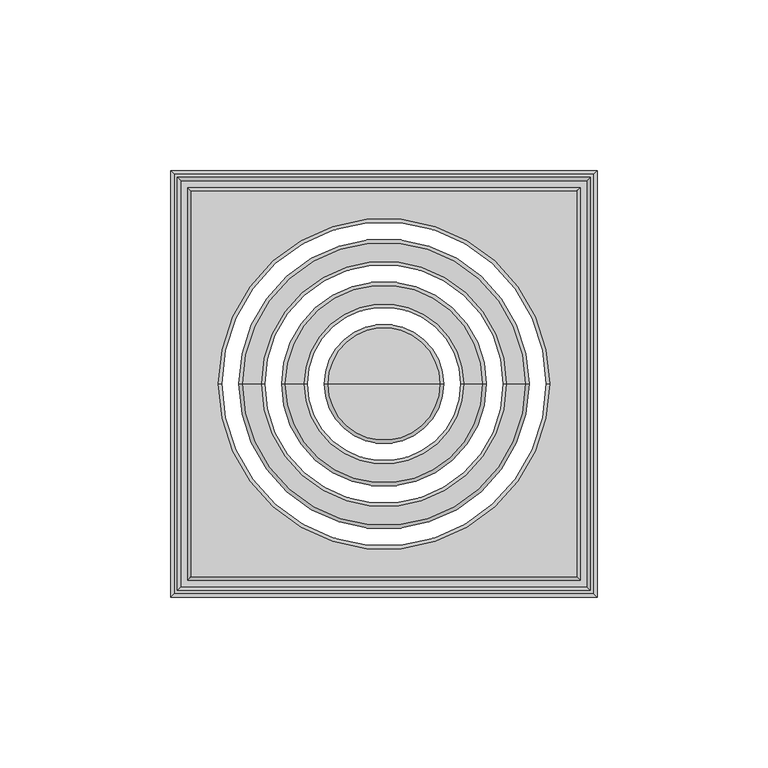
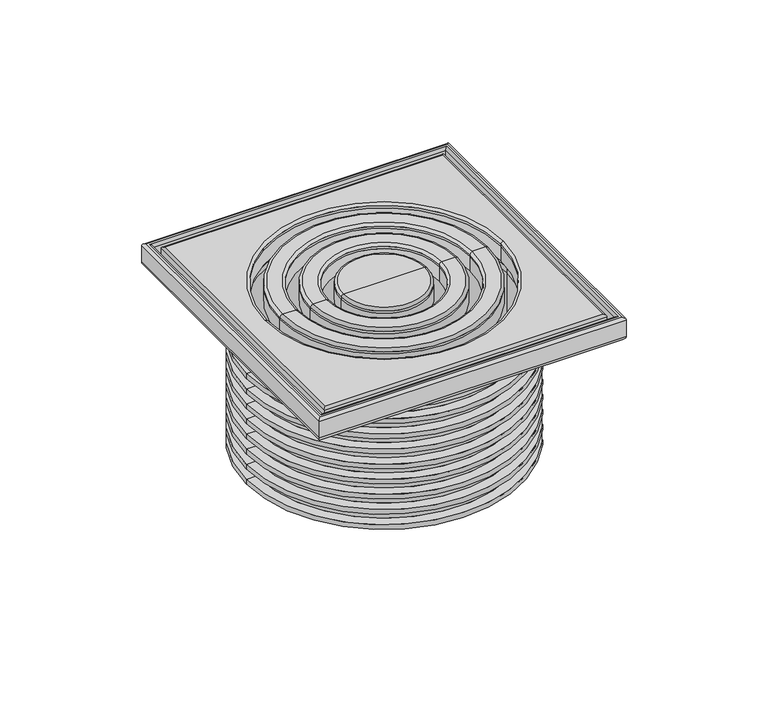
"""IFC4 building model written with IfcOpenShell, lengths in millimetres: flow terminal geometry."""

from ifc_helpers import new_model, si_unit, point, frame, origin, origin_with_axes, place, context, project, spatial, polyline, circle_curve, ellipse_curve, trimmed, source, transform, mapped, element, save
from ifc_brep_helpers import plane_surface, cylinder_surface, revolved_surface, advanced_brep


def flow_terminal_ce6f007e(model_context):
    return source(origin(), model_context, "Body", "AdvancedBrep", [
        advanced_brep(
        [(59.5, -59.5, -8.0), (59.5, 59.5, -8.0), (-59.5, 59.5, -8.0), (-59.5, -59.5, -8.0), (0.0, -55.0, -8.0), (0.0, 55.0, -8.0), (60.5, 60.5, -10.0), (60.5, -60.5, -10.0), (-60.5, -60.5, -10.0), (-60.5, 60.5, -10.0), (56.5, 0.0, -10.0), (-56.5, 0.0, -10.0), (0.0, -55.0, -10.0), (-55.0, 0.0, -10.0), (0.0, 55.0, -10.0), (55.0, 0.0, -10.0), (62.5, 62.5, -8.0), (62.5, -62.5, -8.0), (59.5, -59.5, -1.0), (59.5, 59.5, -1.0), (62.5, 62.5, -1.0), (61.5, 61.5, 0.0), (61.5, -61.5, 0.0), (62.5, -62.5, -1.0), (-62.5, -62.5, -8.0), (-59.5, -59.5, -1.0), (-61.5, -61.5, 0.0), (-62.5, -62.5, -1.0), (-62.5, 62.5, -8.0), (-59.5, 59.5, -1.0), (-61.5, 61.5, 0.0), (-62.5, 62.5, -1.0), (60.5, -60.5, 0.0), (-60.5, -60.5, 0.0), (-60.5, 60.5, 0.0), (60.5, 60.5, 0.0), (-50.0, 0.0, -14.0), (50.0, 0.0, -14.0), (50.0, 0.0, -12.0), (-50.0, 0.0, -12.0), (-55.5, 0.0, -14.0), (55.5, 0.0, -14.0), (-51.0, 0.0, -10.0), (51.0, 0.0, -10.0), (-55.5, 0.0, -12.0), (55.5, 0.0, -12.0)],
        [
            (0, 1),
            (1, 2),
            (2, 3),
            (3, 0),
            (4, 5, circle_curve(frame((0.0, 0.0, -8.0), z_axis=(0.0, 0.0, -1.0), x_axis=(0.0, 1.0, 0.0)), 55.0)),
            (5, 4, circle_curve(frame((0.0, 0.0, -8.0), z_axis=(0.0, 0.0, -1.0), x_axis=(0.0, 1.0, 0.0)), 55.0)),
            (6, 7),
            (7, 8),
            (8, 9),
            (9, 6),
            (10, 11, circle_curve(frame((0.0, 0.0, -10.0), z_axis=(0.0, 0.0, 1.0), x_axis=(1.0, 0.0, 0.0)), 56.5)),
            (11, 10, circle_curve(frame((0.0, 0.0, -10.0), z_axis=(0.0, 0.0, 1.0), x_axis=(1.0, 0.0, 0.0)), 56.5)),
            (4, 12),
            (12, 13, circle_curve(frame((0.0, 0.0, -10.0), z_axis=(0.0, 0.0, -1.0), x_axis=(0.0, 1.0, 0.0)), 55.0)),
            (13, 14, circle_curve(frame((0.0, 0.0, -10.0), z_axis=(0.0, 0.0, -1.0), x_axis=(0.0, 1.0, 0.0)), 55.0)),
            (14, 5),
            (14, 15, circle_curve(frame((0.0, 0.0, -10.0), z_axis=(0.0, 0.0, -1.0), x_axis=(0.0, 1.0, 0.0)), 55.0)),
            (15, 12, circle_curve(frame((0.0, 0.0, -10.0), z_axis=(0.0, 0.0, -1.0), x_axis=(0.0, 1.0, 0.0)), 55.0)),
            (6, 16, ellipse_curve(frame((60.5, 60.5, -8.0), z_axis=(0.7071067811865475, -0.7071067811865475, 0.0), x_axis=(0.7071067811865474, 0.7071067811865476, 0.0)), 2.8284271, 2.0)),
            (16, 17),
            (17, 7, ellipse_curve(frame((60.5, -60.5, -8.0), z_axis=(0.7071067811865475, 0.7071067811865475, 0.0), x_axis=(-0.7071067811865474, 0.7071067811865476, 0.0)), 2.8284271, 2.0)),
            (18, 19),
            (19, 1),
            (0, 18),
            (20, 21, ellipse_curve(frame((61.5, 61.5, -1.0), z_axis=(0.7071067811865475, -0.7071067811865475, 0.0), x_axis=(0.7071067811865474, 0.7071067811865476, 0.0)), 1.4142136, 1.0)),
            (21, 22),
            (22, 23, ellipse_curve(frame((61.5, -61.5, -1.0), z_axis=(0.7071067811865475, 0.7071067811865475, 0.0), x_axis=(-0.7071067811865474, 0.7071067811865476, 0.0)), 1.4142136, 1.0)),
            (23, 20),
            (16, 20),
            (23, 17),
            (17, 24),
            (24, 8, ellipse_curve(frame((-60.5, -60.5, -8.0), z_axis=(0.7071067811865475, -0.7071067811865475, 0.0), x_axis=(0.7071067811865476, 0.7071067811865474, 0.0)), 2.8284271, 2.0)),
            (25, 18),
            (3, 25),
            (22, 26),
            (26, 27, ellipse_curve(frame((-61.5, -61.5, -1.0), z_axis=(0.7071067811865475, -0.7071067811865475, 0.0), x_axis=(0.7071067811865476, 0.7071067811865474, 0.0)), 1.4142136, 1.0)),
            (27, 23),
            (27, 24),
            (24, 28),
            (28, 9, ellipse_curve(frame((-60.5, 60.5, -8.0), z_axis=(-0.7071067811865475, -0.7071067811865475, 0.0), x_axis=(0.7071067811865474, -0.7071067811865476, 0.0)), 2.8284271, 2.0)),
            (29, 25),
            (2, 29),
            (26, 30),
            (30, 31, ellipse_curve(frame((-61.5, 61.5, -1.0), z_axis=(-0.7071067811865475, -0.7071067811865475, 0.0), x_axis=(0.7071067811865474, -0.7071067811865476, 0.0)), 1.4142136, 1.0)),
            (31, 27),
            (31, 28),
            (28, 16),
            (19, 29),
            (21, 30),
            (32, 33),
            (33, 34),
            (34, 35),
            (35, 32),
            (20, 31),
            (18, 32, ellipse_curve(frame((60.5, -60.5, -1.0), z_axis=(0.7071067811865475, 0.7071067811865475, 0.0), x_axis=(-0.7071067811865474, 0.7071067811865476, 0.0)), 1.4142136, 1.0)),
            (35, 19, ellipse_curve(frame((60.5, 60.5, -1.0), z_axis=(0.7071067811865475, -0.7071067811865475, 0.0), x_axis=(0.7071067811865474, 0.7071067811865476, 0.0)), 1.4142136, 1.0)),
            (25, 33, ellipse_curve(frame((-60.5, -60.5, -1.0), z_axis=(0.7071067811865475, -0.7071067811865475, 0.0), x_axis=(0.7071067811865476, 0.7071067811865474, 0.0)), 1.4142136, 1.0)),
            (29, 34, ellipse_curve(frame((-60.5, 60.5, -1.0), z_axis=(-0.7071067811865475, -0.7071067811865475, 0.0), x_axis=(0.7071067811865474, -0.7071067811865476, 0.0)), 1.4142136, 1.0)),
            (36, 37, circle_curve(frame((0.0, 0.0, -14.0), z_axis=(0.0, 0.0, -1.0), x_axis=(1.0, 0.0, 0.0)), 50.0)),
            (37, 38),
            (38, 39, circle_curve(frame((0.0, 0.0, -12.0), z_axis=(0.0, 0.0, 1.0), x_axis=(1.0, 0.0, 0.0)), 50.0)),
            (39, 36),
            (37, 36, circle_curve(frame((0.0, 0.0, -14.0), z_axis=(0.0, 0.0, -1.0), x_axis=(1.0, 0.0, 0.0)), 50.0)),
            (39, 38, circle_curve(frame((0.0, 0.0, -12.0), z_axis=(0.0, 0.0, 1.0), x_axis=(1.0, 0.0, 0.0)), 50.0)),
            (36, 40),
            (40, 41, circle_curve(frame((0.0, 0.0, -14.0), z_axis=(0.0, 0.0, -1.0), x_axis=(1.0, 0.0, 0.0)), 55.5)),
            (41, 37),
            (41, 40, circle_curve(frame((0.0, 0.0, -14.0), z_axis=(0.0, 0.0, -1.0), x_axis=(1.0, 0.0, 0.0)), 55.5)),
            (42, 43, circle_curve(frame((0.0, 0.0, -10.0), z_axis=(0.0, 0.0, -1.0), x_axis=(1.0, 0.0, 0.0)), 51.0)),
            (43, 15),
            (13, 42),
            (43, 42, circle_curve(frame((0.0, 0.0, -10.0), z_axis=(0.0, 0.0, -1.0), x_axis=(1.0, 0.0, 0.0)), 51.0)),
            (40, 44),
            (44, 45, circle_curve(frame((0.0, 0.0, -12.0), z_axis=(0.0, 0.0, -1.0), x_axis=(1.0, 0.0, 0.0)), 55.5)),
            (45, 41),
            (45, 44, circle_curve(frame((0.0, 0.0, -12.0), z_axis=(0.0, 0.0, -1.0), x_axis=(1.0, 0.0, 0.0)), 55.5)),
            (44, 11),
            (10, 45),
            (38, 43),
            (42, 39),
        ],
        [
            plane_surface(frame((-59.5, 59.5, -8.0), z_axis=(0.0, 0.0, 1.0), x_axis=(-1.0, 0.0, 0.0))),
            plane_surface(frame((-59.5, 59.5, -10.0), z_axis=(0.0, 0.0, -1.0), x_axis=(1.0, 0.0, 0.0))),
            revolved_surface(polyline([(0.0, 55.0, -10.0), (0.0, 55.0, -8.0)]), (0.0, 0.0, -10.0), (0.0, 0.0, -1.0)),
            cylinder_surface(frame((60.5, 62.5, -8.0), z_axis=(0.0, 1.0, 0.0), x_axis=(1.0, 0.0, 0.0)), 2.0),
            plane_surface(frame((59.5, 59.5, -10.0), z_axis=(-1.0, 0.0, 0.0), x_axis=(0.0, -1.0, 0.0))),
            cylinder_surface(frame((61.5, 62.5, -1.0), z_axis=(0.0, 1.0, 0.0), x_axis=(1.0, 0.0, 0.0)), 1.0),
            plane_surface(frame((62.5, 62.5, -1.0), z_axis=(1.0, 0.0, 0.0), x_axis=(0.0, -1.0, 0.0))),
            cylinder_surface(frame((62.5, -60.5, -8.0), z_axis=(1.0, 0.0, 0.0), x_axis=(0.0, -1.0, 0.0)), 2.0),
            plane_surface(frame((59.5, -59.5, -10.0), z_axis=(0.0, 1.0, 0.0), x_axis=(-1.0, 0.0, 0.0))),
            cylinder_surface(frame((62.5, -61.5, -1.0), z_axis=(1.0, 0.0, 0.0), x_axis=(0.0, -1.0, 0.0)), 1.0),
            plane_surface(frame((62.5, -62.5, -1.0), z_axis=(0.0, -1.0, 0.0), x_axis=(-1.0, 0.0, 0.0))),
            cylinder_surface(frame((-60.5, -62.5, -8.0), z_axis=(0.0, -1.0, 0.0), x_axis=(-1.0, 0.0, 0.0)), 2.0),
            plane_surface(frame((-59.5, -59.5, -10.0), z_axis=(1.0, 0.0, 0.0), x_axis=(0.0, 1.0, 0.0))),
            cylinder_surface(frame((-61.5, -62.5, -1.0), z_axis=(0.0, -1.0, 0.0), x_axis=(-1.0, 0.0, 0.0)), 1.0),
            plane_surface(frame((-62.5, -62.5, -1.0), z_axis=(-1.0, 0.0, 0.0), x_axis=(0.0, 1.0, 0.0))),
            cylinder_surface(frame((-62.5, 60.5, -8.0), z_axis=(-1.0, 0.0, 0.0), x_axis=(0.0, 1.0, 0.0)), 2.0),
            plane_surface(frame((-59.5, 59.5, -10.0), z_axis=(0.0, -1.0, 0.0), x_axis=(1.0, 0.0, 0.0))),
            plane_surface(frame((-60.5, 60.5, 0.0), z_axis=(0.0, 0.0, 1.0), x_axis=(1.0, 0.0, 0.0))),
            cylinder_surface(frame((-62.5, 61.5, -1.0), z_axis=(-1.0, 0.0, 0.0), x_axis=(0.0, 1.0, 0.0)), 1.0),
            plane_surface(frame((-62.5, 62.5, -1.0), z_axis=(0.0, 1.0, 0.0), x_axis=(1.0, 0.0, 0.0))),
            cylinder_surface(frame((60.5, 62.5, -1.0), z_axis=(0.0, 1.0, 0.0), x_axis=(1.0, 0.0, 0.0)), 1.0),
            cylinder_surface(frame((62.5, -60.5, -1.0), z_axis=(1.0, 0.0, 0.0), x_axis=(0.0, -1.0, 0.0)), 1.0),
            cylinder_surface(frame((-60.5, -62.5, -1.0), z_axis=(0.0, -1.0, 0.0), x_axis=(-1.0, 0.0, 0.0)), 1.0),
            cylinder_surface(frame((-62.5, 60.5, -1.0), z_axis=(-1.0, 0.0, 0.0), x_axis=(0.0, 1.0, 0.0)), 1.0),
            revolved_surface(polyline([(50.0, 0.0, -12.0), (50.0, 0.0, -14.0)]), (0.0, 0.0, 2214.3150031), (0.0, 0.0, 1.0)),
            plane_surface(frame((0.0, 0.0, -14.0), z_axis=(0.0, 0.0, -1.0), x_axis=(1.0, 0.0, 0.0))),
            plane_surface(frame((0.0, 0.0, -10.0), z_axis=(0.0, 0.0, 1.0), x_axis=(1.0, 0.0, 0.0))),
            cylinder_surface(frame((0.0, 0.0, 2214.3150031), z_axis=(0.0, 0.0, 1.0), x_axis=(1.0, 0.0, 0.0)), 55.5),
            revolved_surface(polyline([(55.5, 0.0, -12.0), (56.5, 0.0, -10.0)]), (0.0, 0.0, 2214.3150031), (0.0, 0.0, 1.0)),
            revolved_surface(polyline([(51.0, 0.0, -10.0), (50.0, 0.0, -12.0)]), (0.0, 0.0, 2214.3150031), (0.0, 0.0, 1.0)),
        ],
        [
            (0, [[1, 2, 3, 4], [5, 6]]),
            (1, [[7, 8, 9, 10], [11, 12]]),
            (2, [[-5, 13, 14, 15, 16]]),
            (2, [[-6, -16, 17, 18, -13]]),
            (3, [[19, 20, 21, -7]]),
            (4, [[22, 23, -1, 24]]),
            (5, [[25, 26, 27, 28]]),
            (6, [[-20, 29, -28, 30]]),
            (7, [[-21, 31, 32, -8]]),
            (8, [[33, -24, -4, 34]]),
            (9, [[-27, 35, 36, 37]]),
            (10, [[-30, -37, 38, -31]]),
            (11, [[-32, 39, 40, -9]]),
            (12, [[41, -34, -3, 42]]),
            (13, [[-36, 43, 44, 45]]),
            (14, [[-38, -45, 46, -39]]),
            (15, [[-19, -10, -40, 47]]),
            (16, [[48, -42, -2, -23]]),
            (17, [[-26, 49, -43, -35], [50, 51, 52, 53]]),
            (18, [[-25, 54, -44, -49]]),
            (19, [[-29, -47, -46, -54]]),
            (20, [[-22, 55, -53, 56]]),
            (21, [[-33, 57, -50, -55]]),
            (22, [[-41, 58, -51, -57]]),
            (23, [[-48, -56, -52, -58]]),
            (24, [[59, 60, 61, 62]]),
            (24, [[-60, 63, -62, 64]]),
            (25, [[-59, 65, 66, 67]]),
            (25, [[-63, -67, 68, -65]]),
            (26, [[69, 70, -17, -15, 71]]),
            (26, [[72, -71, -14, -18, -70]]),
            (27, [[-66, 73, 74, 75]]),
            (27, [[-68, -75, 76, -73]]),
            (28, [[-74, 77, -11, 78]]),
            (28, [[-76, -78, -12, -77]]),
            (29, [[-61, 79, -69, 80]]),
            (29, [[-64, -80, -72, -79]]),
        ],
    ),
        advanced_brep(
        [(57.5, -57.5, -8.0), (-57.5, -57.5, -8.0), (-57.5, 57.5, -8.0), (57.5, 57.5, -8.0), (-47.5, 0.0, -8.0), (47.5, 0.0, -8.0), (57.5, 57.5, -1.0), (57.5, -57.5, -1.0), (-57.5, 57.5, -1.0), (-57.5, -57.5, -1.0), (47.5, 0.0, -2.0), (-47.5, 0.0, -2.0), (47.5, 0.0, -1.0), (-47.5, 0.0, -1.0), (-56.5, -56.5, 0.0), (56.5, -56.5, 0.0), (56.5, 56.5, 0.0), (-56.5, 56.5, 0.0), (-48.5, 0.0, 0.0), (48.5, 0.0, 0.0)],
        [
            (0, 1),
            (1, 2),
            (2, 3),
            (3, 0),
            (4, 5, circle_curve(frame((0.0, 0.0, -8.0), z_axis=(0.0, 0.0, 1.0), x_axis=(1.0, 0.0, 0.0)), 47.5)),
            (5, 4, circle_curve(frame((0.0, 0.0, -8.0), z_axis=(0.0, 0.0, 1.0), x_axis=(1.0, 0.0, 0.0)), 47.5)),
            (3, 6),
            (6, 7),
            (7, 0),
            (2, 8),
            (8, 6),
            (1, 9),
            (9, 8),
            (7, 9),
            (5, 10),
            (10, 11, circle_curve(frame((0.0, 0.0, -2.0), z_axis=(0.0, 0.0, 1.0), x_axis=(1.0, 0.0, 0.0)), 47.5)),
            (11, 4),
            (11, 10, circle_curve(frame((0.0, 0.0, -2.0), z_axis=(0.0, 0.0, 1.0), x_axis=(1.0, 0.0, 0.0)), 47.5)),
            (10, 12),
            (12, 13, circle_curve(frame((0.0, 0.0, -1.0), z_axis=(0.0, 0.0, 1.0), x_axis=(1.0, 0.0, 0.0)), 47.5)),
            (13, 11),
            (13, 12, circle_curve(frame((0.0, 0.0, -1.0), z_axis=(0.0, 0.0, 1.0), x_axis=(1.0, 0.0, 0.0)), 47.5)),
            (14, 15),
            (15, 16),
            (16, 17),
            (17, 14),
            (18, 19, circle_curve(frame((0.0, 0.0, 0.0), z_axis=(0.0, 0.0, -1.0), x_axis=(1.0, 0.0, 0.0)), 48.5)),
            (19, 18, circle_curve(frame((0.0, 0.0, 0.0), z_axis=(0.0, 0.0, -1.0), x_axis=(1.0, 0.0, 0.0)), 48.5)),
            (12, 19, circle_curve(frame((48.5, 0.0, -1.0), z_axis=(0.0, 1.0, 0.0), x_axis=(1.0, 0.0, 0.0)), 1.0)),
            (18, 13, circle_curve(frame((-48.5, 0.0, -1.0), z_axis=(0.0, 1.0, 0.0), x_axis=(-1.0, 0.0, 0.0)), 1.0)),
            (14, 9, ellipse_curve(frame((-56.5, -56.5, -1.0), z_axis=(0.7071067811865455, -0.7071067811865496, 0.0), x_axis=(-0.7071067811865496, -0.7071067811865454, 0.0)), 1.4142136, 1.0)),
            (7, 15, ellipse_curve(frame((56.5, -56.5, -1.0), z_axis=(-0.7071067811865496, -0.7071067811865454, 0.0), x_axis=(-0.7071067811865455, 0.7071067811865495, 0.0)), 1.4142136, 1.0)),
            (6, 16, ellipse_curve(frame((56.5, 56.5, -1.0), z_axis=(0.7071067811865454, -0.7071067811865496, 0.0), x_axis=(-0.7071067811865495, -0.7071067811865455, 0.0)), 1.4142136, 1.0)),
            (8, 17, ellipse_curve(frame((-56.5, 56.5, -1.0), z_axis=(0.7071067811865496, 0.7071067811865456, 0.0), x_axis=(0.7071067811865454, -0.7071067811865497, 0.0)), 1.4142136, 1.0)),
        ],
        [
            plane_surface(frame((57.5, -27.9226907, -8.0), z_axis=(0.0, 0.0, -1.0), x_axis=(0.0, -1.0, 0.0))),
            plane_surface(frame((57.5, -57.5, -2.0), z_axis=(1.0, 0.0, 0.0), x_axis=(0.0, 0.0, -1.0))),
            plane_surface(frame((57.5, 57.5, -2.0), z_axis=(0.0, 1.0, 0.0), x_axis=(0.0, 0.0, -1.0))),
            plane_surface(frame((-57.5, 57.5, -2.0), z_axis=(-1.0, 0.0, 0.0), x_axis=(0.0, 0.0, -1.0))),
            plane_surface(frame((-57.5, -57.5, -2.0), z_axis=(0.0, -1.0, 0.0), x_axis=(0.0, 0.0, -1.0))),
            revolved_surface(polyline([(47.5, 0.0, -8.0), (47.5, 0.0, -2.0)]), (0.0, 0.0, 0.0), (0.0, 0.0, -1.0)),
            revolved_surface(polyline([(47.5, 0.0, -1.0), (47.5, 0.0, -2.0)]), (0.0, 0.0, 2214.3150031), (0.0, 0.0, 1.0)),
            plane_surface(origin_with_axes()),
            revolved_surface(trimmed(ellipse_curve(frame((48.5, 0.0, -1.0), z_axis=(0.0, -1.0, 0.0), x_axis=(1.0, 0.0, 0.0)), 1.0, 1.0), [point((48.5, 0.0, 0.0))], [point((47.5, 0.0, -1.0))], True, "CARTESIAN"), (0.0, 0.0, 2214.3150031), (0.0, 0.0, 1.0)),
            cylinder_surface(frame((-57.5, -56.5, -1.0), z_axis=(-1.0, 0.0, 0.0), x_axis=(0.0, 1.0, 0.0)), 1.0),
            cylinder_surface(frame((56.5, -57.5, -1.0), z_axis=(0.0, -1.0, 0.0), x_axis=(-1.0, 0.0, 0.0)), 1.0),
            cylinder_surface(frame((57.5, 56.5, -1.0), z_axis=(1.0, 0.0, 0.0), x_axis=(0.0, -1.0, 0.0)), 1.0),
            cylinder_surface(frame((-56.5, 57.5, -1.0), z_axis=(0.0, 1.0, 0.0), x_axis=(1.0, 0.0, 0.0)), 1.0),
        ],
        [
            (0, [[1, 2, 3, 4], [5, 6]]),
            (1, [[-4, 7, 8, 9]]),
            (2, [[-3, 10, 11, -7]]),
            (3, [[-2, 12, 13, -10]]),
            (4, [[-1, -9, 14, -12]]),
            (5, [[-6, 15, 16, 17]]),
            (5, [[-5, -17, 18, -15]]),
            (6, [[19, 20, 21, -16]]),
            (6, [[-19, -18, -21, 22]]),
            (7, [[23, 24, 25, 26], [27, 28]]),
            (8, [[-20, 29, -27, 30]]),
            (8, [[-22, -30, -28, -29]]),
            (9, [[31, -14, 32, -23]]),
            (10, [[-32, -8, 33, -24]]),
            (11, [[-33, -11, 34, -25]]),
            (12, [[-31, -26, -34, -13]]),
        ],
    ),
        advanced_brep(
        [(-17.5, 0.0, -8.0), (17.5, 0.0, -8.0), (17.5, 0.0, -2.0), (-17.5, 0.0, -2.0), (-17.5, 0.0, -1.0), (17.5, 0.0, -1.0), (-16.5, 0.0, 0.0), (16.5, 0.0, 0.0), (0.0, 0.0, 0.0)],
        [
            (0, 1, circle_curve(frame((0.0, 0.0, -8.0), z_axis=(0.0, 0.0, -1.0), x_axis=(1.0, 0.0, 0.0)), 17.5)),
            (1, 0, circle_curve(frame((0.0, 0.0, -8.0), z_axis=(0.0, 0.0, -1.0), x_axis=(1.0, 0.0, 0.0)), 17.5)),
            (1, 2),
            (2, 3, circle_curve(frame((0.0, 0.0, -2.0), z_axis=(0.0, 0.0, -1.0), x_axis=(1.0, 0.0, 0.0)), 17.5)),
            (3, 0),
            (3, 2, circle_curve(frame((0.0, 0.0, -2.0), z_axis=(0.0, 0.0, -1.0), x_axis=(1.0, 0.0, 0.0)), 17.5)),
            (4, 5, circle_curve(frame((0.0, 0.0, -1.0), z_axis=(0.0, 0.0, -1.0), x_axis=(1.0, 0.0, 0.0)), 17.5)),
            (5, 2),
            (3, 4),
            (5, 4, circle_curve(frame((0.0, 0.0, -1.0), z_axis=(0.0, 0.0, -1.0), x_axis=(1.0, 0.0, 0.0)), 17.5)),
            (4, 6, circle_curve(frame((-16.5, 0.0, -1.0), z_axis=(0.0, 1.0, 0.0), x_axis=(-1.0, 0.0, 0.0)), 1.0)),
            (6, 7, circle_curve(frame((0.0, 0.0, 0.0), z_axis=(0.0, 0.0, -1.0), x_axis=(1.0, 0.0, 0.0)), 16.5)),
            (7, 5, circle_curve(frame((16.5, 0.0, -1.0), z_axis=(0.0, 1.0, 0.0), x_axis=(1.0, 0.0, 0.0)), 1.0)),
            (7, 6, circle_curve(frame((0.0, 0.0, 0.0), z_axis=(0.0, 0.0, -1.0), x_axis=(1.0, 0.0, 0.0)), 16.5)),
            (6, 8),
            (8, 7),
        ],
        [
            plane_surface(frame((57.5, -27.9226907, -8.0), z_axis=(0.0, 0.0, -1.0), x_axis=(0.0, -1.0, 0.0))),
            cylinder_surface(origin_with_axes(), 17.5),
            cylinder_surface(frame((0.0, 0.0, 2214.3150031), z_axis=(0.0, 0.0, 1.0), x_axis=(1.0, 0.0, 0.0)), 17.5),
            revolved_surface(trimmed(ellipse_curve(frame((16.5, 0.0, -1.0), z_axis=(0.0, -1.0, 0.0), x_axis=(1.0, 0.0, 0.0)), 1.0, 1.0), [point((17.5, 0.0, -1.0))], [point((16.5, 0.0, 0.0))], True, "CARTESIAN"), (0.0, 0.0, 2214.3150031), (0.0, 0.0, 1.0)),
            plane_surface(origin_with_axes()),
        ],
        [
            (0, [[1, 2]]),
            (1, [[-2, 3, 4, 5]]),
            (1, [[-1, -5, 6, -3]]),
            (2, [[7, 8, -6, 9]]),
            (2, [[-8, 10, -9, -4]]),
            (3, [[-7, 11, 12, 13]]),
            (3, [[-10, -13, 14, -11]]),
            (4, [[-12, 15, 16]]),
            (4, [[-14, -16, -15]]),
        ],
    ),
        advanced_brep(
        [(-30.0, 0.0, -8.0), (30.0, 0.0, -8.0), (-22.5, 0.0, -8.0), (22.5, 0.0, -8.0), (22.5, 0.0, -2.0), (-22.5, 0.0, -2.0), (30.0, 0.0, -2.0), (-30.0, 0.0, -2.0), (-29.0, 0.0, 0.0), (29.0, 0.0, 0.0), (30.0, 0.0, -1.0), (-30.0, 0.0, -1.0), (-23.5, 0.0, 0.0), (23.5, 0.0, 0.0), (-22.5, 0.0, -1.0), (22.5, 0.0, -1.0)],
        [
            (0, 1, circle_curve(frame((0.0, 0.0, -8.0), z_axis=(0.0, 0.0, -1.0), x_axis=(1.0, 0.0, 0.0)), 30.0)),
            (1, 0, circle_curve(frame((0.0, 0.0, -8.0), z_axis=(0.0, 0.0, -1.0), x_axis=(1.0, 0.0, 0.0)), 30.0)),
            (2, 3, circle_curve(frame((0.0, 0.0, -8.0), z_axis=(0.0, 0.0, 1.0), x_axis=(1.0, 0.0, 0.0)), 22.5)),
            (3, 2, circle_curve(frame((0.0, 0.0, -8.0), z_axis=(0.0, 0.0, 1.0), x_axis=(1.0, 0.0, 0.0)), 22.5)),
            (3, 4),
            (4, 5, circle_curve(frame((0.0, 0.0, -2.0), z_axis=(0.0, 0.0, 1.0), x_axis=(1.0, 0.0, 0.0)), 22.5)),
            (5, 2),
            (5, 4, circle_curve(frame((0.0, 0.0, -2.0), z_axis=(0.0, 0.0, 1.0), x_axis=(1.0, 0.0, 0.0)), 22.5)),
            (1, 6),
            (6, 7, circle_curve(frame((0.0, 0.0, -2.0), z_axis=(0.0, 0.0, -1.0), x_axis=(1.0, 0.0, 0.0)), 30.0)),
            (7, 0),
            (7, 6, circle_curve(frame((0.0, 0.0, -2.0), z_axis=(0.0, 0.0, -1.0), x_axis=(1.0, 0.0, 0.0)), 30.0)),
            (8, 9, circle_curve(frame((0.0, 0.0, 0.0), z_axis=(0.0, 0.0, -1.0), x_axis=(1.0, 0.0, 0.0)), 29.0)),
            (9, 10, circle_curve(frame((29.0, 0.0, -1.0), z_axis=(0.0, 1.0, 0.0), x_axis=(1.0, 0.0, 0.0)), 1.0)),
            (10, 11, circle_curve(frame((0.0, 0.0, -1.0), z_axis=(0.0, 0.0, 1.0), x_axis=(1.0, 0.0, 0.0)), 30.0)),
            (11, 8, circle_curve(frame((-29.0, 0.0, -1.0), z_axis=(0.0, 1.0, 0.0), x_axis=(-1.0, 0.0, 0.0)), 1.0)),
            (9, 8, circle_curve(frame((0.0, 0.0, 0.0), z_axis=(0.0, 0.0, -1.0), x_axis=(1.0, 0.0, 0.0)), 29.0)),
            (11, 10, circle_curve(frame((0.0, 0.0, -1.0), z_axis=(0.0, 0.0, 1.0), x_axis=(1.0, 0.0, 0.0)), 30.0)),
            (8, 12),
            (12, 13, circle_curve(frame((0.0, 0.0, 0.0), z_axis=(0.0, 0.0, -1.0), x_axis=(1.0, 0.0, 0.0)), 23.5)),
            (13, 9),
            (13, 12, circle_curve(frame((0.0, 0.0, 0.0), z_axis=(0.0, 0.0, -1.0), x_axis=(1.0, 0.0, 0.0)), 23.5)),
            (12, 14, circle_curve(frame((-23.5, 0.0, -1.0), z_axis=(0.0, 1.0, 0.0), x_axis=(-1.0, 0.0, 0.0)), 1.0)),
            (14, 15, circle_curve(frame((0.0, 0.0, -1.0), z_axis=(0.0, 0.0, -1.0), x_axis=(1.0, 0.0, 0.0)), 22.5)),
            (15, 13, circle_curve(frame((23.5, 0.0, -1.0), z_axis=(0.0, 1.0, 0.0), x_axis=(1.0, 0.0, 0.0)), 1.0)),
            (15, 14, circle_curve(frame((0.0, 0.0, -1.0), z_axis=(0.0, 0.0, -1.0), x_axis=(1.0, 0.0, 0.0)), 22.5)),
            (14, 5),
            (4, 15),
            (10, 6),
            (7, 11),
        ],
        [
            plane_surface(frame((57.5, -27.9226907, -8.0), z_axis=(0.0, 0.0, -1.0), x_axis=(0.0, -1.0, 0.0))),
            revolved_surface(polyline([(22.5, 0.0, -8.0), (22.5, 0.0, -2.0)]), (0.0, 0.0, 0.0), (0.0, 0.0, -1.0)),
            cylinder_surface(origin_with_axes(), 30.0),
            revolved_surface(trimmed(ellipse_curve(frame((29.0, 0.0, -1.0), z_axis=(0.0, -1.0, 0.0), x_axis=(1.0, 0.0, 0.0)), 1.0, 1.0), [point((30.0, 0.0, -1.0))], [point((29.0, 0.0, 0.0))], True, "CARTESIAN"), (0.0, 0.0, 2214.3150031), (0.0, 0.0, 1.0)),
            plane_surface(origin_with_axes()),
            revolved_surface(trimmed(ellipse_curve(frame((23.5, 0.0, -1.0), z_axis=(0.0, -1.0, 0.0), x_axis=(1.0, 0.0, 0.0)), 1.0, 1.0), [point((23.5, 0.0, 0.0))], [point((22.5, 0.0, -1.0))], True, "CARTESIAN"), (0.0, 0.0, 2214.3150031), (0.0, 0.0, 1.0)),
            revolved_surface(polyline([(22.5, 0.0, -1.0), (22.5, 0.0, -2.0)]), (0.0, 0.0, 2214.3150031), (0.0, 0.0, 1.0)),
            cylinder_surface(frame((0.0, 0.0, 2214.3150031), z_axis=(0.0, 0.0, 1.0), x_axis=(1.0, 0.0, 0.0)), 30.0),
        ],
        [
            (0, [[1, 2], [3, 4]]),
            (1, [[-4, 5, 6, 7]]),
            (1, [[-3, -7, 8, -5]]),
            (2, [[-2, 9, 10, 11]]),
            (2, [[-1, -11, 12, -9]]),
            (3, [[13, 14, 15, 16]]),
            (3, [[-14, 17, -16, 18]]),
            (4, [[-13, 19, 20, 21]]),
            (4, [[-17, -21, 22, -19]]),
            (5, [[-20, 23, 24, 25]]),
            (5, [[-22, -25, 26, -23]]),
            (6, [[-24, 27, -6, 28]]),
            (6, [[-26, -28, -8, -27]]),
            (7, [[-15, 29, -12, 30]]),
            (7, [[-18, -30, -10, -29]]),
        ],
    ),
        advanced_brep(
        [(-42.5, 0.0, -8.0), (42.5, 0.0, -8.0), (-35.0, 0.0, -8.0), (35.0, 0.0, -8.0), (35.0, 0.0, -2.0), (-35.0, 0.0, -2.0), (42.5, 0.0, -2.0), (-42.5, 0.0, -2.0), (-41.5, 0.0, 0.0), (41.5, 0.0, 0.0), (42.5, 0.0, -1.0), (-42.5, 0.0, -1.0), (-36.0, 0.0, 0.0), (36.0, 0.0, 0.0), (-35.0, 0.0, -1.0), (35.0, 0.0, -1.0)],
        [
            (0, 1, circle_curve(frame((0.0, 0.0, -8.0), z_axis=(0.0, 0.0, -1.0), x_axis=(1.0, 0.0, 0.0)), 42.5)),
            (1, 0, circle_curve(frame((0.0, 0.0, -8.0), z_axis=(0.0, 0.0, -1.0), x_axis=(1.0, 0.0, 0.0)), 42.5)),
            (2, 3, circle_curve(frame((0.0, 0.0, -8.0), z_axis=(0.0, 0.0, 1.0), x_axis=(1.0, 0.0, 0.0)), 35.0)),
            (3, 2, circle_curve(frame((0.0, 0.0, -8.0), z_axis=(0.0, 0.0, 1.0), x_axis=(1.0, 0.0, 0.0)), 35.0)),
            (3, 4),
            (4, 5, circle_curve(frame((0.0, 0.0, -2.0), z_axis=(0.0, 0.0, 1.0), x_axis=(1.0, 0.0, 0.0)), 35.0)),
            (5, 2),
            (5, 4, circle_curve(frame((0.0, 0.0, -2.0), z_axis=(0.0, 0.0, 1.0), x_axis=(1.0, 0.0, 0.0)), 35.0)),
            (1, 6),
            (6, 7, circle_curve(frame((0.0, 0.0, -2.0), z_axis=(0.0, 0.0, -1.0), x_axis=(1.0, 0.0, 0.0)), 42.5)),
            (7, 0),
            (7, 6, circle_curve(frame((0.0, 0.0, -2.0), z_axis=(0.0, 0.0, -1.0), x_axis=(1.0, 0.0, 0.0)), 42.5)),
            (8, 9, circle_curve(frame((0.0, 0.0, 0.0), z_axis=(0.0, 0.0, -1.0), x_axis=(1.0, 0.0, 0.0)), 41.5)),
            (9, 10, circle_curve(frame((41.5, 0.0, -1.0), z_axis=(0.0, 1.0, 0.0), x_axis=(1.0, 0.0, 0.0)), 1.0)),
            (10, 11, circle_curve(frame((0.0, 0.0, -1.0), z_axis=(0.0, 0.0, 1.0), x_axis=(1.0, 0.0, 0.0)), 42.5)),
            (11, 8, circle_curve(frame((-41.5, 0.0, -1.0), z_axis=(0.0, 1.0, 0.0), x_axis=(-1.0, 0.0, 0.0)), 1.0)),
            (9, 8, circle_curve(frame((0.0, 0.0, 0.0), z_axis=(0.0, 0.0, -1.0), x_axis=(1.0, 0.0, 0.0)), 41.5)),
            (11, 10, circle_curve(frame((0.0, 0.0, -1.0), z_axis=(0.0, 0.0, 1.0), x_axis=(1.0, 0.0, 0.0)), 42.5)),
            (8, 12),
            (12, 13, circle_curve(frame((0.0, 0.0, 0.0), z_axis=(0.0, 0.0, -1.0), x_axis=(1.0, 0.0, 0.0)), 36.0)),
            (13, 9),
            (13, 12, circle_curve(frame((0.0, 0.0, 0.0), z_axis=(0.0, 0.0, -1.0), x_axis=(1.0, 0.0, 0.0)), 36.0)),
            (12, 14, circle_curve(frame((-36.0, 0.0, -1.0), z_axis=(0.0, 1.0, 0.0), x_axis=(-1.0, 0.0, 0.0)), 1.0)),
            (14, 15, circle_curve(frame((0.0, 0.0, -1.0), z_axis=(0.0, 0.0, -1.0), x_axis=(1.0, 0.0, 0.0)), 35.0)),
            (15, 13, circle_curve(frame((36.0, 0.0, -1.0), z_axis=(0.0, 1.0, 0.0), x_axis=(1.0, 0.0, 0.0)), 1.0)),
            (15, 14, circle_curve(frame((0.0, 0.0, -1.0), z_axis=(0.0, 0.0, -1.0), x_axis=(1.0, 0.0, 0.0)), 35.0)),
            (14, 5),
            (4, 15),
            (10, 6),
            (7, 11),
        ],
        [
            plane_surface(frame((57.5, -27.9226907, -8.0), z_axis=(0.0, 0.0, -1.0), x_axis=(0.0, -1.0, 0.0))),
            revolved_surface(polyline([(35.0, 0.0, -8.0), (35.0, 0.0, -2.0)]), (0.0, 0.0, 0.0), (0.0, 0.0, -1.0)),
            cylinder_surface(origin_with_axes(), 42.5),
            revolved_surface(trimmed(ellipse_curve(frame((41.5, 0.0, -1.0), z_axis=(0.0, -1.0, 0.0), x_axis=(1.0, 0.0, 0.0)), 1.0, 1.0), [point((42.5, 0.0, -1.0))], [point((41.5, 0.0, 0.0))], True, "CARTESIAN"), (0.0, 0.0, 2214.3150031), (0.0, 0.0, 1.0)),
            plane_surface(origin_with_axes()),
            revolved_surface(trimmed(ellipse_curve(frame((36.0, 0.0, -1.0), z_axis=(0.0, -1.0, 0.0), x_axis=(1.0, 0.0, 0.0)), 1.0, 1.0), [point((36.0, 0.0, 0.0))], [point((35.0, 0.0, -1.0))], True, "CARTESIAN"), (0.0, 0.0, 2214.3150031), (0.0, 0.0, 1.0)),
            revolved_surface(polyline([(35.0, 0.0, -1.0), (35.0, 0.0, -2.0)]), (0.0, 0.0, 2214.3150031), (0.0, 0.0, 1.0)),
            cylinder_surface(frame((0.0, 0.0, 2214.3150031), z_axis=(0.0, 0.0, 1.0), x_axis=(1.0, 0.0, 0.0)), 42.5),
        ],
        [
            (0, [[1, 2], [3, 4]]),
            (1, [[-4, 5, 6, 7]]),
            (1, [[-3, -7, 8, -5]]),
            (2, [[-2, 9, 10, 11]]),
            (2, [[-1, -11, 12, -9]]),
            (3, [[13, 14, 15, 16]]),
            (3, [[-14, 17, -16, 18]]),
            (4, [[-13, 19, 20, 21]]),
            (4, [[-17, -21, 22, -19]]),
            (5, [[-20, 23, 24, 25]]),
            (5, [[-22, -25, 26, -23]]),
            (6, [[-24, 27, -6, 28]]),
            (6, [[-26, -28, -8, -27]]),
            (7, [[-15, 29, -12, 30]]),
            (7, [[-18, -30, -10, -29]]),
        ],
    ),
        advanced_brep(
        [(-50.0, 0.0, -12.0), (50.0, 0.0, -12.0), (52.0, 0.0, -12.0), (-52.0, 0.0, -12.0), (-52.0, 0.0, -68.0), (52.0, 0.0, -68.0), (52.0, 0.0, -70.0), (-52.0, 0.0, -70.0), (-56.0, 0.0, -68.0), (56.0, 0.0, -68.0), (-56.0, 0.0, -66.0), (56.0, 0.0, -66.0), (-52.0, 0.0, -66.0), (52.0, 0.0, -66.0), (-52.0, 0.0, -61.5), (52.0, 0.0, -61.5), (-56.0, 0.0, -61.5), (56.0, 0.0, -61.5), (-56.0, 0.0, -59.5), (56.0, 0.0, -59.5), (-52.0, 0.0, -59.5), (52.0, 0.0, -59.5), (-52.0, 0.0, -55.0), (52.0, 0.0, -55.0), (-56.0, 0.0, -55.0), (56.0, 0.0, -55.0), (-56.0, 0.0, -53.0), (56.0, 0.0, -53.0), (-52.0, 0.0, -53.0), (52.0, 0.0, -53.0), (-52.0, 0.0, -48.5), (52.0, 0.0, -48.5), (-56.0, 0.0, -48.5), (56.0, 0.0, -48.5), (-56.0, 0.0, -46.5), (56.0, 0.0, -46.5), (-52.0, 0.0, -46.5), (52.0, 0.0, -46.5), (-52.0, 0.0, -42.0), (52.0, 0.0, -42.0), (-56.0, 0.0, -42.0), (56.0, 0.0, -42.0), (-56.0, 0.0, -40.0), (56.0, 0.0, -40.0), (-52.0, 0.0, -40.0), (52.0, 0.0, -40.0), (-52.0, 0.0, -35.5), (52.0, 0.0, -35.5), (-56.0, 0.0, -35.5), (56.0, 0.0, -35.5), (-56.0, 0.0, -33.5), (56.0, 0.0, -33.5), (-52.0, 0.0, -33.5), (52.0, 0.0, -33.5), (-52.0, 0.0, -29.0), (52.0, 0.0, -29.0), (-56.0, 0.0, -29.0), (56.0, 0.0, -29.0), (-56.0, 0.0, -27.0), (56.0, 0.0, -27.0), (-52.0, 0.0, -27.0), (52.0, 0.0, -27.0), (-52.0, 0.0, -22.5), (52.0, 0.0, -22.5), (-56.0, 0.0, -22.5), (56.0, 0.0, -22.5), (-56.0, 0.0, -20.5), (56.0, 0.0, -20.5), (-52.0, 0.0, -20.5), (52.0, 0.0, -20.5), (-52.0, 0.0, -16.0), (52.0, 0.0, -16.0), (-56.0, 0.0, -16.0), (56.0, 0.0, -16.0), (-56.0, 0.0, -14.0), (56.0, 0.0, -14.0), (-52.0, 0.0, -14.0), (52.0, 0.0, -14.0), (50.0, 0.0, -70.0), (-50.0, 0.0, -70.0)],
        [
            (0, 1, circle_curve(frame((0.0, 0.0, -12.0), z_axis=(0.0, 0.0, -1.0), x_axis=(1.0, 0.0, 0.0)), 50.0)),
            (1, 2),
            (2, 3, circle_curve(frame((0.0, 0.0, -12.0), z_axis=(0.0, 0.0, 1.0), x_axis=(1.0, 0.0, 0.0)), 52.0)),
            (3, 0),
            (1, 0, circle_curve(frame((0.0, 0.0, -12.0), z_axis=(0.0, 0.0, -1.0), x_axis=(1.0, 0.0, 0.0)), 50.0)),
            (3, 2, circle_curve(frame((0.0, 0.0, -12.0), z_axis=(0.0, 0.0, 1.0), x_axis=(1.0, 0.0, 0.0)), 52.0)),
            (4, 5, circle_curve(frame((0.0, 0.0, -68.0), z_axis=(0.0, 0.0, -1.0), x_axis=(1.0, 0.0, 0.0)), 52.0)),
            (5, 6),
            (6, 7, circle_curve(frame((0.0, 0.0, -70.0), z_axis=(0.0, 0.0, 1.0), x_axis=(1.0, 0.0, 0.0)), 52.0)),
            (7, 4),
            (5, 4, circle_curve(frame((0.0, 0.0, -68.0), z_axis=(0.0, 0.0, -1.0), x_axis=(1.0, 0.0, 0.0)), 52.0)),
            (7, 6, circle_curve(frame((0.0, 0.0, -70.0), z_axis=(0.0, 0.0, 1.0), x_axis=(1.0, 0.0, 0.0)), 52.0)),
            (4, 8),
            (8, 9, circle_curve(frame((0.0, 0.0, -68.0), z_axis=(0.0, 0.0, -1.0), x_axis=(1.0, 0.0, 0.0)), 56.0)),
            (9, 5),
            (9, 8, circle_curve(frame((0.0, 0.0, -68.0), z_axis=(0.0, 0.0, -1.0), x_axis=(1.0, 0.0, 0.0)), 56.0)),
            (8, 10),
            (10, 11, circle_curve(frame((0.0, 0.0, -66.0), z_axis=(0.0, 0.0, -1.0), x_axis=(1.0, 0.0, 0.0)), 56.0)),
            (11, 9),
            (11, 10, circle_curve(frame((0.0, 0.0, -66.0), z_axis=(0.0, 0.0, -1.0), x_axis=(1.0, 0.0, 0.0)), 56.0)),
            (10, 12),
            (12, 13, circle_curve(frame((0.0, 0.0, -66.0), z_axis=(0.0, 0.0, -1.0), x_axis=(1.0, 0.0, 0.0)), 52.0)),
            (13, 11),
            (13, 12, circle_curve(frame((0.0, 0.0, -66.0), z_axis=(0.0, 0.0, -1.0), x_axis=(1.0, 0.0, 0.0)), 52.0)),
            (12, 14),
            (14, 15, circle_curve(frame((0.0, 0.0, -61.5), z_axis=(0.0, 0.0, -1.0), x_axis=(1.0, 0.0, 0.0)), 52.0)),
            (15, 13),
            (15, 14, circle_curve(frame((0.0, 0.0, -61.5), z_axis=(0.0, 0.0, -1.0), x_axis=(1.0, 0.0, 0.0)), 52.0)),
            (14, 16),
            (16, 17, circle_curve(frame((0.0, 0.0, -61.5), z_axis=(0.0, 0.0, -1.0), x_axis=(1.0, 0.0, 0.0)), 56.0)),
            (17, 15),
            (17, 16, circle_curve(frame((0.0, 0.0, -61.5), z_axis=(0.0, 0.0, -1.0), x_axis=(1.0, 0.0, 0.0)), 56.0)),
            (16, 18),
            (18, 19, circle_curve(frame((0.0, 0.0, -59.5), z_axis=(0.0, 0.0, -1.0), x_axis=(1.0, 0.0, 0.0)), 56.0)),
            (19, 17),
            (19, 18, circle_curve(frame((0.0, 0.0, -59.5), z_axis=(0.0, 0.0, -1.0), x_axis=(1.0, 0.0, 0.0)), 56.0)),
            (18, 20),
            (20, 21, circle_curve(frame((0.0, 0.0, -59.5), z_axis=(0.0, 0.0, -1.0), x_axis=(1.0, 0.0, 0.0)), 52.0)),
            (21, 19),
            (21, 20, circle_curve(frame((0.0, 0.0, -59.5), z_axis=(0.0, 0.0, -1.0), x_axis=(1.0, 0.0, 0.0)), 52.0)),
            (20, 22),
            (22, 23, circle_curve(frame((0.0, 0.0, -55.0), z_axis=(0.0, 0.0, -1.0), x_axis=(1.0, 0.0, 0.0)), 52.0)),
            (23, 21),
            (23, 22, circle_curve(frame((0.0, 0.0, -55.0), z_axis=(0.0, 0.0, -1.0), x_axis=(1.0, 0.0, 0.0)), 52.0)),
            (22, 24),
            (24, 25, circle_curve(frame((0.0, 0.0, -55.0), z_axis=(0.0, 0.0, -1.0), x_axis=(1.0, 0.0, 0.0)), 56.0)),
            (25, 23),
            (25, 24, circle_curve(frame((0.0, 0.0, -55.0), z_axis=(0.0, 0.0, -1.0), x_axis=(1.0, 0.0, 0.0)), 56.0)),
            (24, 26),
            (26, 27, circle_curve(frame((0.0, 0.0, -53.0), z_axis=(0.0, 0.0, -1.0), x_axis=(1.0, 0.0, 0.0)), 56.0)),
            (27, 25),
            (27, 26, circle_curve(frame((0.0, 0.0, -53.0), z_axis=(0.0, 0.0, -1.0), x_axis=(1.0, 0.0, 0.0)), 56.0)),
            (26, 28),
            (28, 29, circle_curve(frame((0.0, 0.0, -53.0), z_axis=(0.0, 0.0, -1.0), x_axis=(1.0, 0.0, 0.0)), 52.0)),
            (29, 27),
            (29, 28, circle_curve(frame((0.0, 0.0, -53.0), z_axis=(0.0, 0.0, -1.0), x_axis=(1.0, 0.0, 0.0)), 52.0)),
            (28, 30),
            (30, 31, circle_curve(frame((0.0, 0.0, -48.5), z_axis=(0.0, 0.0, -1.0), x_axis=(1.0, 0.0, 0.0)), 52.0)),
            (31, 29),
            (31, 30, circle_curve(frame((0.0, 0.0, -48.5), z_axis=(0.0, 0.0, -1.0), x_axis=(1.0, 0.0, 0.0)), 52.0)),
            (30, 32),
            (32, 33, circle_curve(frame((0.0, 0.0, -48.5), z_axis=(0.0, 0.0, -1.0), x_axis=(1.0, 0.0, 0.0)), 56.0)),
            (33, 31),
            (33, 32, circle_curve(frame((0.0, 0.0, -48.5), z_axis=(0.0, 0.0, -1.0), x_axis=(1.0, 0.0, 0.0)), 56.0)),
            (32, 34),
            (34, 35, circle_curve(frame((0.0, 0.0, -46.5), z_axis=(0.0, 0.0, -1.0), x_axis=(1.0, 0.0, 0.0)), 56.0)),
            (35, 33),
            (35, 34, circle_curve(frame((0.0, 0.0, -46.5), z_axis=(0.0, 0.0, -1.0), x_axis=(1.0, 0.0, 0.0)), 56.0)),
            (34, 36),
            (36, 37, circle_curve(frame((0.0, 0.0, -46.5), z_axis=(0.0, 0.0, -1.0), x_axis=(1.0, 0.0, 0.0)), 52.0)),
            (37, 35),
            (37, 36, circle_curve(frame((0.0, 0.0, -46.5), z_axis=(0.0, 0.0, -1.0), x_axis=(1.0, 0.0, 0.0)), 52.0)),
            (36, 38),
            (38, 39, circle_curve(frame((0.0, 0.0, -42.0), z_axis=(0.0, 0.0, -1.0), x_axis=(1.0, 0.0, 0.0)), 52.0)),
            (39, 37),
            (39, 38, circle_curve(frame((0.0, 0.0, -42.0), z_axis=(0.0, 0.0, -1.0), x_axis=(1.0, 0.0, 0.0)), 52.0)),
            (38, 40),
            (40, 41, circle_curve(frame((0.0, 0.0, -42.0), z_axis=(0.0, 0.0, -1.0), x_axis=(1.0, 0.0, 0.0)), 56.0)),
            (41, 39),
            (41, 40, circle_curve(frame((0.0, 0.0, -42.0), z_axis=(0.0, 0.0, -1.0), x_axis=(1.0, 0.0, 0.0)), 56.0)),
            (40, 42),
            (42, 43, circle_curve(frame((0.0, 0.0, -40.0), z_axis=(0.0, 0.0, -1.0), x_axis=(1.0, 0.0, 0.0)), 56.0)),
            (43, 41),
            (43, 42, circle_curve(frame((0.0, 0.0, -40.0), z_axis=(0.0, 0.0, -1.0), x_axis=(1.0, 0.0, 0.0)), 56.0)),
            (42, 44),
            (44, 45, circle_curve(frame((0.0, 0.0, -40.0), z_axis=(0.0, 0.0, -1.0), x_axis=(1.0, 0.0, 0.0)), 52.0)),
            (45, 43),
            (45, 44, circle_curve(frame((0.0, 0.0, -40.0), z_axis=(0.0, 0.0, -1.0), x_axis=(1.0, 0.0, 0.0)), 52.0)),
            (44, 46),
            (46, 47, circle_curve(frame((0.0, 0.0, -35.5), z_axis=(0.0, 0.0, -1.0), x_axis=(1.0, 0.0, 0.0)), 52.0)),
            (47, 45),
            (47, 46, circle_curve(frame((0.0, 0.0, -35.5), z_axis=(0.0, 0.0, -1.0), x_axis=(1.0, 0.0, 0.0)), 52.0)),
            (46, 48),
            (48, 49, circle_curve(frame((0.0, 0.0, -35.5), z_axis=(0.0, 0.0, -1.0), x_axis=(1.0, 0.0, 0.0)), 56.0)),
            (49, 47),
            (49, 48, circle_curve(frame((0.0, 0.0, -35.5), z_axis=(0.0, 0.0, -1.0), x_axis=(1.0, 0.0, 0.0)), 56.0)),
            (48, 50),
            (50, 51, circle_curve(frame((0.0, 0.0, -33.5), z_axis=(0.0, 0.0, -1.0), x_axis=(1.0, 0.0, 0.0)), 56.0)),
            (51, 49),
            (51, 50, circle_curve(frame((0.0, 0.0, -33.5), z_axis=(0.0, 0.0, -1.0), x_axis=(1.0, 0.0, 0.0)), 56.0)),
            (50, 52),
            (52, 53, circle_curve(frame((0.0, 0.0, -33.5), z_axis=(0.0, 0.0, -1.0), x_axis=(1.0, 0.0, 0.0)), 52.0)),
            (53, 51),
            (53, 52, circle_curve(frame((0.0, 0.0, -33.5), z_axis=(0.0, 0.0, -1.0), x_axis=(1.0, 0.0, 0.0)), 52.0)),
            (52, 54),
            (54, 55, circle_curve(frame((0.0, 0.0, -29.0), z_axis=(0.0, 0.0, -1.0), x_axis=(1.0, 0.0, 0.0)), 52.0)),
            (55, 53),
            (55, 54, circle_curve(frame((0.0, 0.0, -29.0), z_axis=(0.0, 0.0, -1.0), x_axis=(1.0, 0.0, 0.0)), 52.0)),
            (54, 56),
            (56, 57, circle_curve(frame((0.0, 0.0, -29.0), z_axis=(0.0, 0.0, -1.0), x_axis=(1.0, 0.0, 0.0)), 56.0)),
            (57, 55),
            (57, 56, circle_curve(frame((0.0, 0.0, -29.0), z_axis=(0.0, 0.0, -1.0), x_axis=(1.0, 0.0, 0.0)), 56.0)),
            (56, 58),
            (58, 59, circle_curve(frame((0.0, 0.0, -27.0), z_axis=(0.0, 0.0, -1.0), x_axis=(1.0, 0.0, 0.0)), 56.0)),
            (59, 57),
            (59, 58, circle_curve(frame((0.0, 0.0, -27.0), z_axis=(0.0, 0.0, -1.0), x_axis=(1.0, 0.0, 0.0)), 56.0)),
            (58, 60),
            (60, 61, circle_curve(frame((0.0, 0.0, -27.0), z_axis=(0.0, 0.0, -1.0), x_axis=(1.0, 0.0, 0.0)), 52.0)),
            (61, 59),
            (61, 60, circle_curve(frame((0.0, 0.0, -27.0), z_axis=(0.0, 0.0, -1.0), x_axis=(1.0, 0.0, 0.0)), 52.0)),
            (60, 62),
            (62, 63, circle_curve(frame((0.0, 0.0, -22.5), z_axis=(0.0, 0.0, -1.0), x_axis=(1.0, 0.0, 0.0)), 52.0)),
            (63, 61),
            (63, 62, circle_curve(frame((0.0, 0.0, -22.5), z_axis=(0.0, 0.0, -1.0), x_axis=(1.0, 0.0, 0.0)), 52.0)),
            (62, 64),
            (64, 65, circle_curve(frame((0.0, 0.0, -22.5), z_axis=(0.0, 0.0, -1.0), x_axis=(1.0, 0.0, 0.0)), 56.0)),
            (65, 63),
            (65, 64, circle_curve(frame((0.0, 0.0, -22.5), z_axis=(0.0, 0.0, -1.0), x_axis=(1.0, 0.0, 0.0)), 56.0)),
            (64, 66),
            (66, 67, circle_curve(frame((0.0, 0.0, -20.5), z_axis=(0.0, 0.0, -1.0), x_axis=(1.0, 0.0, 0.0)), 56.0)),
            (67, 65),
            (67, 66, circle_curve(frame((0.0, 0.0, -20.5), z_axis=(0.0, 0.0, -1.0), x_axis=(1.0, 0.0, 0.0)), 56.0)),
            (66, 68),
            (68, 69, circle_curve(frame((0.0, 0.0, -20.5), z_axis=(0.0, 0.0, -1.0), x_axis=(1.0, 0.0, 0.0)), 52.0)),
            (69, 67),
            (69, 68, circle_curve(frame((0.0, 0.0, -20.5), z_axis=(0.0, 0.0, -1.0), x_axis=(1.0, 0.0, 0.0)), 52.0)),
            (68, 70),
            (70, 71, circle_curve(frame((0.0, 0.0, -16.0), z_axis=(0.0, 0.0, -1.0), x_axis=(1.0, 0.0, 0.0)), 52.0)),
            (71, 69),
            (71, 70, circle_curve(frame((0.0, 0.0, -16.0), z_axis=(0.0, 0.0, -1.0), x_axis=(1.0, 0.0, 0.0)), 52.0)),
            (70, 72),
            (72, 73, circle_curve(frame((0.0, 0.0, -16.0), z_axis=(0.0, 0.0, -1.0), x_axis=(1.0, 0.0, 0.0)), 56.0)),
            (73, 71),
            (73, 72, circle_curve(frame((0.0, 0.0, -16.0), z_axis=(0.0, 0.0, -1.0), x_axis=(1.0, 0.0, 0.0)), 56.0)),
            (72, 74),
            (74, 75, circle_curve(frame((0.0, 0.0, -14.0), z_axis=(0.0, 0.0, -1.0), x_axis=(1.0, 0.0, 0.0)), 56.0)),
            (75, 73),
            (75, 74, circle_curve(frame((0.0, 0.0, -14.0), z_axis=(0.0, 0.0, -1.0), x_axis=(1.0, 0.0, 0.0)), 56.0)),
            (74, 76),
            (76, 77, circle_curve(frame((0.0, 0.0, -14.0), z_axis=(0.0, 0.0, -1.0), x_axis=(1.0, 0.0, 0.0)), 52.0)),
            (77, 75),
            (77, 76, circle_curve(frame((0.0, 0.0, -14.0), z_axis=(0.0, 0.0, -1.0), x_axis=(1.0, 0.0, 0.0)), 52.0)),
            (2, 77),
            (76, 3),
            (78, 79, circle_curve(frame((0.0, 0.0, -70.0), z_axis=(0.0, 0.0, 1.0), x_axis=(1.0, 0.0, 0.0)), 50.0)),
            (79, 78, circle_curve(frame((0.0, 0.0, -70.0), z_axis=(0.0, 0.0, 1.0), x_axis=(1.0, 0.0, 0.0)), 50.0)),
            (0, 79),
            (78, 1),
        ],
        [
            plane_surface(frame((0.0, 0.0, -12.0), z_axis=(0.0, 0.0, 1.0), x_axis=(1.0, 0.0, 0.0))),
            cylinder_surface(frame((0.0, 0.0, 2214.3150031), z_axis=(0.0, 0.0, 1.0), x_axis=(1.0, 0.0, 0.0)), 52.0),
            plane_surface(frame((0.0, 0.0, -68.0), z_axis=(0.0, 0.0, -1.0), x_axis=(1.0, 0.0, 0.0))),
            cylinder_surface(frame((0.0, 0.0, 2214.3150031), z_axis=(0.0, 0.0, 1.0), x_axis=(1.0, 0.0, 0.0)), 56.0),
            plane_surface(frame((0.0, 0.0, -66.0), z_axis=(0.0, 0.0, 1.0), x_axis=(1.0, 0.0, 0.0))),
            plane_surface(frame((0.0, 0.0, -61.5), z_axis=(0.0, 0.0, -1.0), x_axis=(1.0, 0.0, 0.0))),
            plane_surface(frame((0.0, 0.0, -59.5), z_axis=(0.0, 0.0, 1.0), x_axis=(1.0, 0.0, 0.0))),
            plane_surface(frame((0.0, 0.0, -55.0), z_axis=(0.0, 0.0, -1.0), x_axis=(1.0, 0.0, 0.0))),
            plane_surface(frame((0.0, 0.0, -53.0), z_axis=(0.0, 0.0, 1.0), x_axis=(1.0, 0.0, 0.0))),
            plane_surface(frame((0.0, 0.0, -48.5), z_axis=(0.0, 0.0, -1.0), x_axis=(1.0, 0.0, 0.0))),
            plane_surface(frame((0.0, 0.0, -46.5), z_axis=(0.0, 0.0, 1.0), x_axis=(1.0, 0.0, 0.0))),
            plane_surface(frame((0.0, 0.0, -42.0), z_axis=(0.0, 0.0, -1.0), x_axis=(1.0, 0.0, 0.0))),
            plane_surface(frame((0.0, 0.0, -40.0), z_axis=(0.0, 0.0, 1.0), x_axis=(1.0, 0.0, 0.0))),
            plane_surface(frame((0.0, 0.0, -35.5), z_axis=(0.0, 0.0, -1.0), x_axis=(1.0, 0.0, 0.0))),
            plane_surface(frame((0.0, 0.0, -33.5), z_axis=(0.0, 0.0, 1.0), x_axis=(1.0, 0.0, 0.0))),
            plane_surface(frame((0.0, 0.0, -29.0), z_axis=(0.0, 0.0, -1.0), x_axis=(1.0, 0.0, 0.0))),
            plane_surface(frame((0.0, 0.0, -27.0), z_axis=(0.0, 0.0, 1.0), x_axis=(1.0, 0.0, 0.0))),
            plane_surface(frame((0.0, 0.0, -22.5), z_axis=(0.0, 0.0, -1.0), x_axis=(1.0, 0.0, 0.0))),
            plane_surface(frame((0.0, 0.0, -20.5), z_axis=(0.0, 0.0, 1.0), x_axis=(1.0, 0.0, 0.0))),
            plane_surface(frame((0.0, 0.0, -16.0), z_axis=(0.0, 0.0, -1.0), x_axis=(1.0, 0.0, 0.0))),
            plane_surface(frame((0.0, 0.0, -14.0), z_axis=(0.0, 0.0, 1.0), x_axis=(1.0, 0.0, 0.0))),
            plane_surface(frame((-60.0, 0.0, -70.0), z_axis=(0.0, 0.0, -1.0), x_axis=(0.0, -1.0, 0.0))),
            revolved_surface(polyline([(50.0, 0.0, -12.0), (50.0, 0.0, -70.0)]), (0.0, 0.0, 2214.3150031), (0.0, 0.0, 1.0)),
        ],
        [
            (0, [[1, 2, 3, 4]]),
            (0, [[-2, 5, -4, 6]]),
            (1, [[7, 8, 9, 10]]),
            (1, [[11, -10, 12, -8]]),
            (2, [[-7, 13, 14, 15]]),
            (2, [[-11, -15, 16, -13]]),
            (3, [[-14, 17, 18, 19]]),
            (3, [[-16, -19, 20, -17]]),
            (4, [[-18, 21, 22, 23]]),
            (4, [[-20, -23, 24, -21]]),
            (1, [[-22, 25, 26, 27]]),
            (1, [[-24, -27, 28, -25]]),
            (5, [[-26, 29, 30, 31]]),
            (5, [[-28, -31, 32, -29]]),
            (3, [[-30, 33, 34, 35]]),
            (3, [[-32, -35, 36, -33]]),
            (6, [[-34, 37, 38, 39]]),
            (6, [[-36, -39, 40, -37]]),
            (1, [[-38, 41, 42, 43]]),
            (1, [[-40, -43, 44, -41]]),
            (7, [[-42, 45, 46, 47]]),
            (7, [[-44, -47, 48, -45]]),
            (3, [[-46, 49, 50, 51]]),
            (3, [[-48, -51, 52, -49]]),
            (8, [[-50, 53, 54, 55]]),
            (8, [[-52, -55, 56, -53]]),
            (1, [[-54, 57, 58, 59]]),
            (1, [[-56, -59, 60, -57]]),
            (9, [[-58, 61, 62, 63]]),
            (9, [[-60, -63, 64, -61]]),
            (3, [[-62, 65, 66, 67]]),
            (3, [[-64, -67, 68, -65]]),
            (10, [[-66, 69, 70, 71]]),
            (10, [[-68, -71, 72, -69]]),
            (1, [[-70, 73, 74, 75]]),
            (1, [[-72, -75, 76, -73]]),
            (11, [[-74, 77, 78, 79]]),
            (11, [[-76, -79, 80, -77]]),
            (3, [[-78, 81, 82, 83]]),
            (3, [[-80, -83, 84, -81]]),
            (12, [[-82, 85, 86, 87]]),
            (12, [[-84, -87, 88, -85]]),
            (1, [[-86, 89, 90, 91]]),
            (1, [[-88, -91, 92, -89]]),
            (13, [[-90, 93, 94, 95]]),
            (13, [[-92, -95, 96, -93]]),
            (3, [[-94, 97, 98, 99]]),
            (3, [[-96, -99, 100, -97]]),
            (14, [[-98, 101, 102, 103]]),
            (14, [[-100, -103, 104, -101]]),
            (1, [[-102, 105, 106, 107]]),
            (1, [[-104, -107, 108, -105]]),
            (15, [[-106, 109, 110, 111]]),
            (15, [[-108, -111, 112, -109]]),
            (3, [[-110, 113, 114, 115]]),
            (3, [[-112, -115, 116, -113]]),
            (16, [[-114, 117, 118, 119]]),
            (16, [[-116, -119, 120, -117]]),
            (1, [[-118, 121, 122, 123]]),
            (1, [[-120, -123, 124, -121]]),
            (17, [[-122, 125, 126, 127]]),
            (17, [[-124, -127, 128, -125]]),
            (3, [[-126, 129, 130, 131]]),
            (3, [[-128, -131, 132, -129]]),
            (18, [[-130, 133, 134, 135]]),
            (18, [[-132, -135, 136, -133]]),
            (1, [[-134, 137, 138, 139]]),
            (1, [[-136, -139, 140, -137]]),
            (19, [[-138, 141, 142, 143]]),
            (19, [[-140, -143, 144, -141]]),
            (3, [[-142, 145, 146, 147]]),
            (3, [[-144, -147, 148, -145]]),
            (20, [[-146, 149, 150, 151]]),
            (20, [[-148, -151, 152, -149]]),
            (1, [[-3, 153, -150, 154]]),
            (1, [[-6, -154, -152, -153]]),
            (21, [[-9, -12], [155, 156]]),
            (22, [[-1, 157, -155, 158]]),
            (22, [[-5, -158, -156, -157]]),
        ],
    ),
    ])


if __name__ == "__main__":
    model = new_model("IFC4")
    model_context = context("Model", 3, world=origin())
    ifc_project = project(units=[si_unit("LENGTHUNIT", "METRE", prefix="MILLI")], contexts=[model_context])
    site = spatial("IfcSite", under=ifc_project)
    building = spatial("IfcBuilding", under=site)
    placement = place(None, origin())
    flow_terminal_shape = flow_terminal_ce6f007e(model_context)
    element("IfcFlowTerminal", 1, at=placement, inside=building, context=model_context, shape_type="MappedRepresentation", body=[
        mapped(flow_terminal_shape, transform((0.0, 0.0, 0.0), x_axis=(1.0, 0.0, 0.0), y_axis=(0.0, 1.0, 0.0), z_axis=(0.0, 0.0, 1.0))),
    ])
    save(model, "model.ifc")
